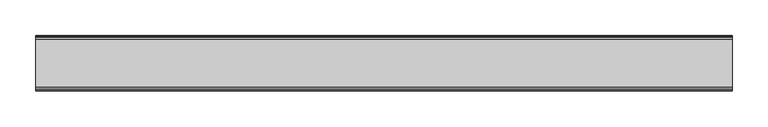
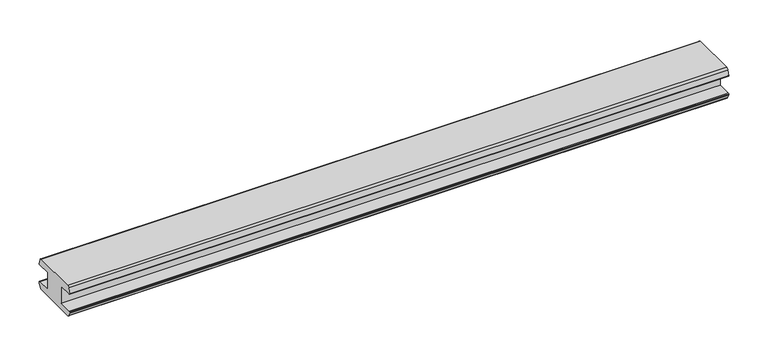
"""IFC4 building model written with IfcOpenShell, lengths in millimetres: proxy geometry, Weiku - Montante - Divisor fixo : Weiku - Montante - Divisor fixo."""

from ifc_helpers import new_model, si_unit, point, frame, frame_2d, origin, place, context, project, spatial, polyline, circle_curve, trimmed, segment, composite_curve, outline, extrude, source, transform, mapped, element, save


def generic_models_ad50b245(model_context):
    return source(origin(), model_context, "Body", "SweptSolid", [
        extrude(outline(composite_curve([segment(polyline([(33.9236898, 0.0001815), (-33.9236898, 0.0001815)]), True, "CONTINUOUS"), segment(trimmed(circle_curve(frame_2d((-33.9236898, 1.0001815)), 1.0), [point((-33.9236898, 0.0001815))], [point((-34.7897452, 0.5002335))], False, "CARTESIAN"), True, "CONTINUOUS"), segment(polyline([(-34.7897452, 0.5002335), (-38.2325085, 6.4641016)]), True, "CONTINUOUS"), segment(trimmed(circle_curve(frame_2d((-36.5004577, 7.4641016)), 2.0), [point((-38.2325085, 6.4641016))], [point((-38.5004577, 7.4641016))], False, "CARTESIAN"), True, "CONTINUOUS"), segment(polyline([(-38.5004577, 7.4641016), (-38.5004577, 8.8)]), True, "CONTINUOUS"), segment(trimmed(circle_curve(frame_2d((-37.8004577, 8.8)), 0.7), [point((-38.5004577, 8.8))], [point((-37.8004577, 9.5))], False, "CARTESIAN"), True, "CONTINUOUS"), segment(polyline([(-37.8004577, 9.5), (-17.5004577, 9.5), (-17.5004577, 36.0), (-37.6094901, 36.0)]), True, "CONTINUOUS"), segment(trimmed(circle_curve(frame_2d((-37.6094901, 36.8)), 0.8), [point((-37.6094901, 36.0))], [point((-38.3822308, 37.0070552))], False, "CARTESIAN"), True, "CONTINUOUS"), segment(polyline([(-38.3822308, 37.0070552), (-36.3004258, 44.7764571)]), True, "CONTINUOUS"), segment(trimmed(circle_curve(frame_2d((-33.4026483, 44.0)), 3.0), [point((-36.3004258, 44.7764571))], [point((-33.4026483, 47.0))], False, "CARTESIAN"), True, "CONTINUOUS"), segment(polyline([(-33.4026483, 47.0), (33.4026483, 47.0)]), True, "CONTINUOUS"), segment(trimmed(circle_curve(frame_2d((33.4026483, 44.0)), 3.0), [point((33.4026483, 47.0))], [point((36.3004258, 44.7764571))], False, "CARTESIAN"), True, "CONTINUOUS"), segment(polyline([(36.3004258, 44.7764571), (38.3822308, 37.0070552)]), True, "CONTINUOUS"), segment(trimmed(circle_curve(frame_2d((37.6094901, 36.8)), 0.8), [point((38.3822308, 37.0070552))], [point((37.6094901, 36.0))], False, "CARTESIAN"), True, "CONTINUOUS"), segment(polyline([(37.6094901, 36.0), (17.5004577, 36.0), (17.5004577, 9.5), (37.8004577, 9.5)]), True, "CONTINUOUS"), segment(trimmed(circle_curve(frame_2d((37.8004577, 8.8)), 0.7), [point((37.8004577, 9.5))], [point((38.5004577, 8.8))], False, "CARTESIAN"), True, "CONTINUOUS"), segment(polyline([(38.5004577, 8.8), (38.5004577, 7.4641016)]), True, "CONTINUOUS"), segment(trimmed(circle_curve(frame_2d((36.5004577, 7.4641016)), 2.0), [point((38.5004577, 7.4641016))], [point((38.2325686, 6.4642056))], False, "CARTESIAN"), True, "CONTINUOUS"), segment(polyline([(38.2325686, 6.4642056), (34.7897452, 0.5002335)]), True, "CONTINUOUS"), segment(trimmed(circle_curve(frame_2d((33.9236898, 1.0001815)), 1.0), [point((34.7897452, 0.5002335))], [point((33.9236898, 0.0001815))], False, "CARTESIAN"), True, "CONTINUOUS")], self_intersect=False)), frame((-483.6, 0.0, 0.0), z_axis=(1.0, 0.0, 0.0), x_axis=(0.0, 1.0, 0.0)), (0.0, 0.0, 1.0), 967.2),
    ])


if __name__ == "__main__":
    model = new_model("IFC4")
    model_context = context("Model", 3, world=origin())
    ifc_project = project(units=[si_unit("LENGTHUNIT", "METRE", prefix="MILLI")], contexts=[model_context])
    site = spatial("IfcSite", under=ifc_project)
    building = spatial("IfcBuilding", under=site)
    placement = place(None, origin())
    generic_models_shape = generic_models_ad50b245(model_context)
    element("IfcBuildingElementProxy", 1, Name="Weiku - Montante - Divisor fixo : Weiku - Montante - Divisor fixo", ObjectType="Weiku - Montante - Divisor fixo : Weiku - Montante - Divisor fixo", at=placement, inside=building, context=model_context, shape_type="MappedRepresentation", body=[
        mapped(generic_models_shape, transform((0.0, 0.0, 0.0), x_axis=(1.0, 0.0, 0.0), y_axis=(0.0, 1.0, 0.0), z_axis=(0.0, 0.0, 1.0))),
    ])
    save(model, "model.ifc")
